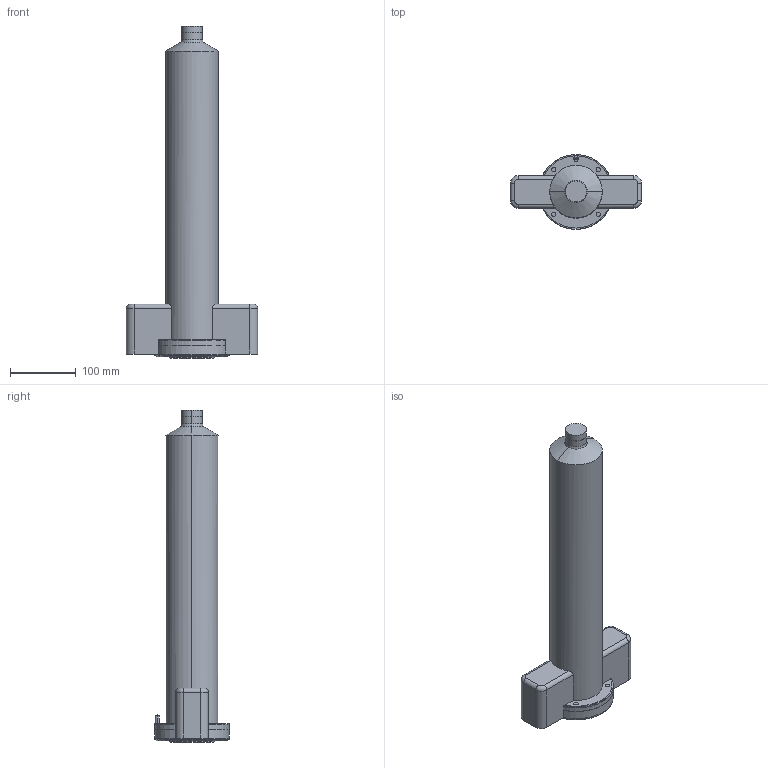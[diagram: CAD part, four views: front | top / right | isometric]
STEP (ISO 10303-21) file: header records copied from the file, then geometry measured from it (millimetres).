
FILE_DESCRIPTION (( 'STEP AP214' ), '1' );
FILE_NAME ('SR24_CLOSED_500_TUBULAR.STEP', '2009-05-07T18:31:12', ( 'Synventive Molding Solutions' ), ( 'Synventive Molding Solutions' ), 'SwSTEP 2.0', 'SolidWorks 2008', '' );
FILE_SCHEMA (( 'AUTOMOTIVE_DESIGN' ));
Length unit declared in the file: millimetre
Products named in the file (1): SR24_CLOSED_500_TUBULAR
Bounding box: 200 x 113.86 x 506 mm (x, y, z)
Volume: 4334610.7 mm3; surface area: 354992.9 mm2
Topology: 4 solids, 6 shells, 380 faces, 920 edges, 554 vertices
Faces by surface type: cylinder 163, plane 95, torus 56, cone 50, sphere 16
Entity records: 16117 total; most frequent: CARTESIAN_POINT 2962, DIRECTION 2012, ORIENTED_EDGE 1788, EDGE_CURVE 894, AXIS2_PLACEMENT_3D 827, VERTEX_POINT 548, CIRCLE 446, EDGE_LOOP 416
